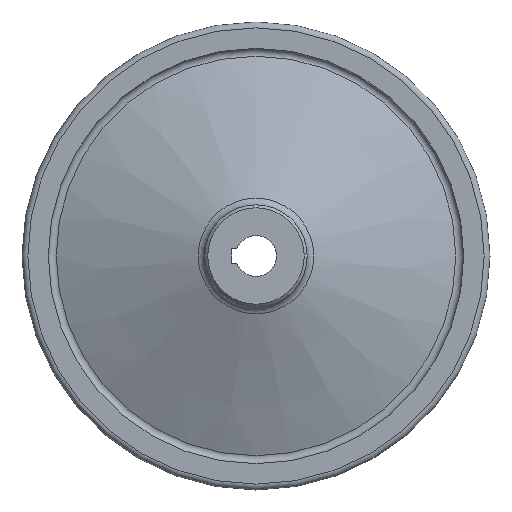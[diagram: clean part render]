
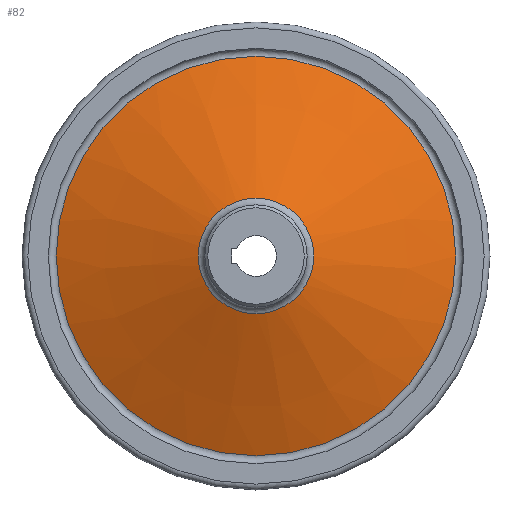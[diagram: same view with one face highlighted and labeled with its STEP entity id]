
A CAD part, left-side view. The second image highlights one B-rep face of the part: STEP entity #82.
In plain terms, the highlighted conical face has half-angle 69 degrees and reference radius 19.746 mm.
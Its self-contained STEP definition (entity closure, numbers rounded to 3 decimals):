
#82 = ADVANCED_FACE( '', ( #120, #121 ), #122, .T. );
#120 = FACE_OUTER_BOUND( '', #188, .T. );
#121 = FACE_BOUND( '', #189, .T. );
#122 = CONICAL_SURFACE( '', #190, 19.746, 1.204 );
#188 = EDGE_LOOP( '', ( #279 ) );
#189 = EDGE_LOOP( '', ( #280 ) );
#190 = AXIS2_PLACEMENT_3D( '', #281, #282, #283 );
#279 = ORIENTED_EDGE( '', *, *, #386, .T. );
#280 = ORIENTED_EDGE( '', *, *, #385, .F. );
#281 = CARTESIAN_POINT( '', ( 10.862, 0., 0. ) );
#282 = DIRECTION( '', ( 1., 0., 0. ) );
#283 = DIRECTION( '', ( 0., 0., -1. ) );
#385 = EDGE_CURVE( '', #429, #429, #430, .T. );
#386 = EDGE_CURVE( '', #431, #431, #432, .T. );
#429 = VERTEX_POINT( '', #495 );
#430 = CIRCLE( '', #496, 19.746 );
#431 = VERTEX_POINT( '', #497 );
#432 = CIRCLE( '', #498, 68.283 );
#495 = CARTESIAN_POINT( '', ( 10.862, 0., 19.746 ) );
#496 = AXIS2_PLACEMENT_3D( '', #556, #557, #558 );
#497 = CARTESIAN_POINT( '', ( 29.494, 0., 68.283 ) );
#498 = AXIS2_PLACEMENT_3D( '', #559, #560, #561 );
#556 = CARTESIAN_POINT( '', ( 10.862, 0., 0. ) );
#557 = DIRECTION( '', ( -1., 0., 0. ) );
#558 = DIRECTION( '', ( 0., 0., 1. ) );
#559 = CARTESIAN_POINT( '', ( 29.494, 0., 0. ) );
#560 = DIRECTION( '', ( -1., 0., 0. ) );
#561 = DIRECTION( '', ( 0., 0., 1. ) );
